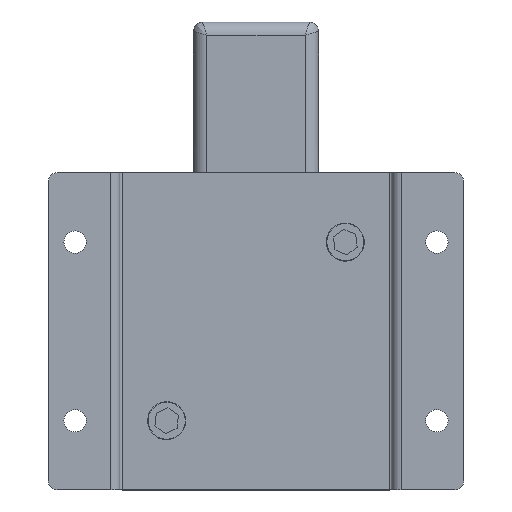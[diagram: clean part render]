
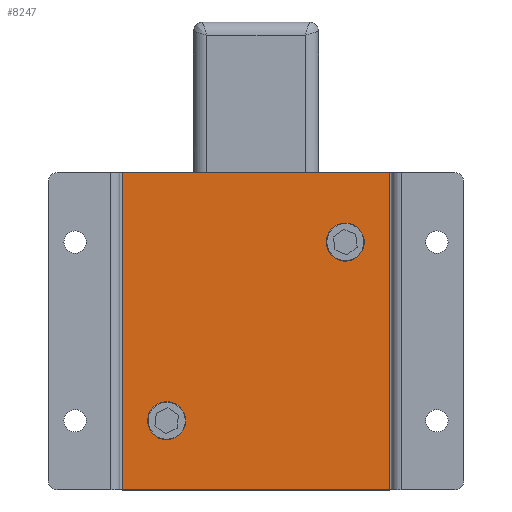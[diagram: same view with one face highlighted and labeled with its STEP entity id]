
A CAD part, top view. The second image highlights one B-rep face of the part: STEP entity #8247.
In plain terms, the highlighted planar face has unit normal (0, 0, 1) as drawn and (0, 0, -1) by its records, which use the part's own axes.
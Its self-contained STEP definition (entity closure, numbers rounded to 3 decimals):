
#29 = LINE ( 'NONE', #3332, #10827 ) ;
#404 = CARTESIAN_POINT ( 'NONE',  ( -30., 35.5, -1.5 ) ) ;
#421 = VECTOR ( 'NONE', #10942, 1000. ) ;
#718 = DIRECTION ( 'NONE',  ( 0., 0., 1. ) ) ;
#983 = DIRECTION ( 'NONE',  ( -1., 0., 0. ) ) ;
#1009 = EDGE_CURVE ( 'NONE', #5521, #10206, #8976, .T. ) ;
#1207 = ORIENTED_EDGE ( 'NONE', *, *, #5520, .T. ) ;
#1286 = EDGE_LOOP ( 'NONE', ( #5602, #11617, #4939, #13119 ) ) ;
#1332 = VERTEX_POINT ( 'NONE', #404 ) ;
#1791 = CARTESIAN_POINT ( 'NONE',  ( 17.25, -20., -1.5 ) ) ;
#2262 = CARTESIAN_POINT ( 'NONE',  ( -20., 20., -1.5 ) ) ;
#2457 = DIRECTION ( 'NONE',  ( 0., 0., 1. ) ) ;
#2670 = CARTESIAN_POINT ( 'NONE',  ( -30., 35.5, -1.5 ) ) ;
#2701 = VECTOR ( 'NONE', #983, 1000. ) ;
#3091 = EDGE_CURVE ( 'NONE', #1332, #6686, #8710, .T. ) ;
#3332 = CARTESIAN_POINT ( 'NONE',  ( 30., -40., -1.5 ) ) ;
#3349 = DIRECTION ( 'NONE',  ( 1., 0., 0. ) ) ;
#3491 = CARTESIAN_POINT ( 'NONE',  ( -30., -35.5, -1.5 ) ) ;
#3534 = FACE_BOUND ( 'NONE', #5571, .T. ) ;
#3600 = DIRECTION ( 'NONE',  ( 0., 0., 1. ) ) ;
#3886 = EDGE_CURVE ( 'NONE', #5353, #11825, #29, .T. ) ;
#4077 = CARTESIAN_POINT ( 'NONE',  ( -17.25, 20., -1.5 ) ) ;
#4755 = LINE ( 'NONE', #2670, #13016 ) ;
#4939 = ORIENTED_EDGE ( 'NONE', *, *, #3091, .F. ) ;
#5228 = DIRECTION ( 'NONE',  ( 0., 0., 1. ) ) ;
#5353 = VERTEX_POINT ( 'NONE', #9881 ) ;
#5494 = DIRECTION ( 'NONE',  ( 1., 0., 0. ) ) ;
#5520 = EDGE_CURVE ( 'NONE', #10206, #5521, #12350, .T. ) ;
#5521 = VERTEX_POINT ( 'NONE', #1791 ) ;
#5571 = EDGE_LOOP ( 'NONE', ( #1207, #9660 ) ) ;
#5602 = ORIENTED_EDGE ( 'NONE', *, *, #3886, .F. ) ;
#6344 = CARTESIAN_POINT ( 'NONE',  ( 30., 35.5, -1.5 ) ) ;
#6629 = FACE_BOUND ( 'NONE', #11776, .T. ) ;
#6641 = CARTESIAN_POINT ( 'NONE',  ( -20., 20., -1.5 ) ) ;
#6686 = VERTEX_POINT ( 'NONE', #3491 ) ;
#6730 = AXIS2_PLACEMENT_3D ( 'NONE', #8959, #718, #13100 ) ;
#6891 = EDGE_CURVE ( 'NONE', #5353, #6686, #7055, .T. ) ;
#6955 = AXIS2_PLACEMENT_3D ( 'NONE', #11929, #3600, #7721 ) ;
#7055 = LINE ( 'NONE', #13224, #2701 ) ;
#7091 = EDGE_CURVE ( 'NONE', #9003, #11245, #11579, .T. ) ;
#7599 = DIRECTION ( 'NONE',  ( 0., 0., 1. ) ) ;
#7721 = DIRECTION ( 'NONE',  ( 1., 0., 0. ) ) ;
#7745 = EDGE_CURVE ( 'NONE', #1332, #11825, #4755, .T. ) ;
#7789 = FACE_OUTER_BOUND ( 'NONE', #1286, .T. ) ;
#7995 = CARTESIAN_POINT ( 'NONE',  ( -22.75, 20., -1.5 ) ) ;
#8247 = ADVANCED_FACE ( 'NONE', ( #6629, #3534, #7789 ), #12881, .F. ) ;
#8612 = DIRECTION ( 'NONE',  ( 1., 0., 0. ) ) ;
#8710 = LINE ( 'NONE', #9857, #421 ) ;
#8780 = AXIS2_PLACEMENT_3D ( 'NONE', #11456, #5228, #3349 ) ;
#8959 = CARTESIAN_POINT ( 'NONE',  ( 20., -20., -1.5 ) ) ;
#8976 = CIRCLE ( 'NONE', #8780, 2.75 ) ;
#9003 = VERTEX_POINT ( 'NONE', #4077 ) ;
#9414 = DIRECTION ( 'NONE',  ( 0., 1., 0. ) ) ;
#9488 = CIRCLE ( 'NONE', #10788, 2.75 ) ;
#9660 = ORIENTED_EDGE ( 'NONE', *, *, #1009, .T. ) ;
#9857 = CARTESIAN_POINT ( 'NONE',  ( -30., -40., -1.5 ) ) ;
#9881 = CARTESIAN_POINT ( 'NONE',  ( 30., -35.5, -1.5 ) ) ;
#10206 = VERTEX_POINT ( 'NONE', #10538 ) ;
#10473 = ORIENTED_EDGE ( 'NONE', *, *, #11155, .T. ) ;
#10538 = CARTESIAN_POINT ( 'NONE',  ( 22.75, -20., -1.5 ) ) ;
#10788 = AXIS2_PLACEMENT_3D ( 'NONE', #6641, #7599, #8612 ) ;
#10827 = VECTOR ( 'NONE', #9414, 1000. ) ;
#10926 = AXIS2_PLACEMENT_3D ( 'NONE', #2262, #2457, #5494 ) ;
#10928 = DIRECTION ( 'NONE',  ( 1., 0., 0. ) ) ;
#10942 = DIRECTION ( 'NONE',  ( 0., -1., 0. ) ) ;
#11155 = EDGE_CURVE ( 'NONE', #11245, #9003, #9488, .T. ) ;
#11245 = VERTEX_POINT ( 'NONE', #7995 ) ;
#11456 = CARTESIAN_POINT ( 'NONE',  ( 20., -20., -1.5 ) ) ;
#11579 = CIRCLE ( 'NONE', #10926, 2.75 ) ;
#11617 = ORIENTED_EDGE ( 'NONE', *, *, #6891, .T. ) ;
#11776 = EDGE_LOOP ( 'NONE', ( #12367, #10473 ) ) ;
#11825 = VERTEX_POINT ( 'NONE', #6344 ) ;
#11929 = CARTESIAN_POINT ( 'NONE',  ( -30., 40., -1.5 ) ) ;
#12350 = CIRCLE ( 'NONE', #6730, 2.75 ) ;
#12367 = ORIENTED_EDGE ( 'NONE', *, *, #7091, .T. ) ;
#12881 = PLANE ( 'NONE',  #6955 ) ;
#13016 = VECTOR ( 'NONE', #10928, 1000. ) ;
#13100 = DIRECTION ( 'NONE',  ( 1., 0., 0. ) ) ;
#13119 = ORIENTED_EDGE ( 'NONE', *, *, #7745, .T. ) ;
#13224 = CARTESIAN_POINT ( 'NONE',  ( -30., -35.5, -1.5 ) ) ;
